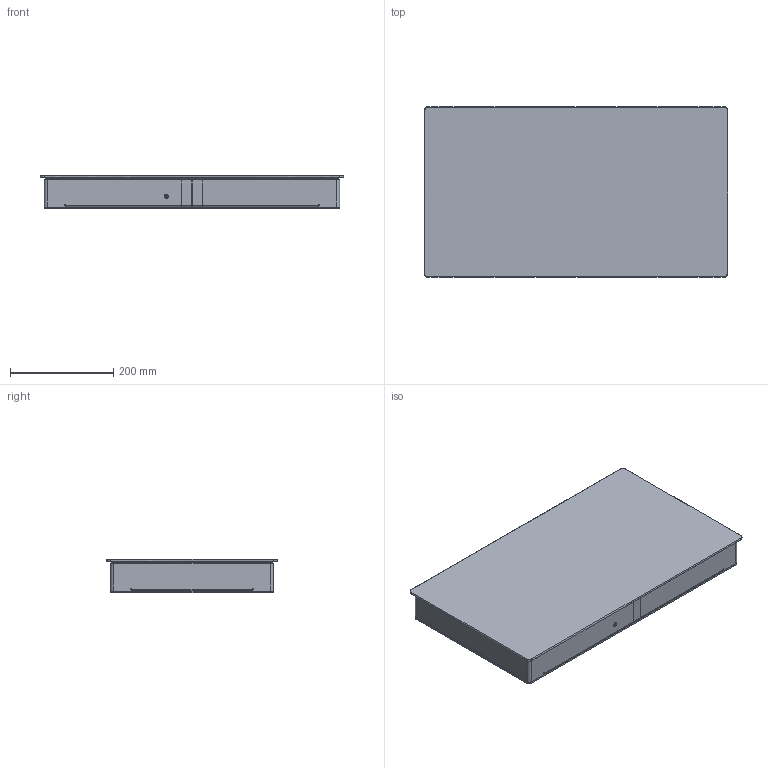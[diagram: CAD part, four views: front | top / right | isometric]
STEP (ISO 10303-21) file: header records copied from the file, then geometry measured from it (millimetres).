
FILE_DESCRIPTION( ( 'INDUCT-WARM built-in; Draft 623' ), '1' );
FILE_NAME( 'C:/Users/ian/Desktop/INDUCT WARM-built in_623.stp', '2013-01-21', ( 'ian' ), ( 'Unknown' ), 'PSStep 14.0', 'Unknown', ' ' );
FILE_SCHEMA( ( 'AUTOMOTIVE_DESIGN { 1 0 10303 214 1 1 1 1 }' ) );
Length unit declared in the file: millimetre
Products named in the file (18): frame asm; self clinching screw M4x12; frame_half; connecting-strap; ground_biv; base plate biv; self clinching screw M3x15; self clinching standoff M4x12; self clinching standoff M3x10; self clinching screw M4x15; self clinching screw M3x10; housing device biv; Glass plate biv; Adhesive_2.2; Assem1; housing power socket; power socket; screw_ISO_14581_M4x8_A2
Assembly tree (68 placements, depth 4):
  Assem1
    housing power socket
    power socket
    screw_ISO_14581_M4x8_A2  x10
    housing device biv
      Glass plate biv
      Adhesive_2.2  x8
      frame asm
        self clinching screw M4x12  x2
        frame_half  x2
        connecting-strap  x2
    ground_biv
      base plate biv
      self clinching screw M4x12  x9
      self clinching screw M3x15
      self clinching standoff M4x12  x17
      self clinching standoff M3x10  x4
      self clinching screw M4x15
      self clinching screw M3x10  x5
Bounding box: 588 x 331 x 64.2 mm (x, y, z)
Volume: 1445358 mm3; surface area: 1089950.1 mm2
Topology: 65 solids, 65 shells, 1631 faces, 4004 edges, 2594 vertices
Faces by surface type: plane 795, cylinder 637, cone 139, torus 36, bspline 16, revolution 8
Full cylindrical faces by diameter (mm): 2.459 x10, 3 x21, 3.2 x1, 3.242 x52, 3.722 x6, 4 x59, 4.2 x4, 4.3 x11, 4.35 x6, 4.5 x10, 4.8 x4, 5.2 x18, 5.21 x6, 6.85 x12, 7.12 x17, 7.3 x12, 8 x8, 8.3 x12, 8.4 x10
Entity records: 32080 total; most frequent: CARTESIAN_POINT 4821, DIRECTION 4321, ORIENTED_EDGE 3894, EDGE_CURVE 1947, AXIS2_PLACEMENT_3D 1566, VERTEX_POINT 1354, EDGE_LOOP 1268, LINE 1188
